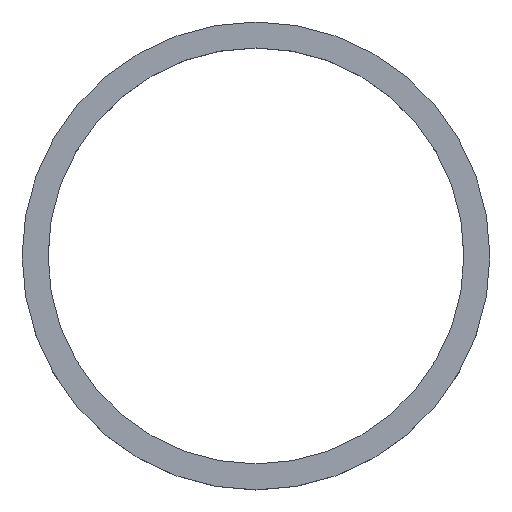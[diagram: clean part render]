
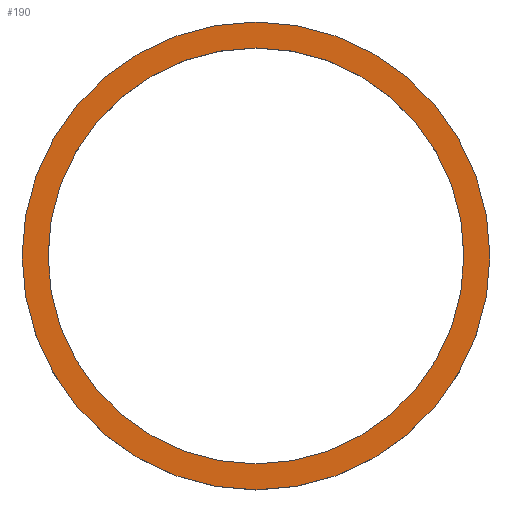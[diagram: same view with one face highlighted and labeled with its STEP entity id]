
A CAD part, top view. The second image highlights one B-rep face of the part: STEP entity #190.
In plain terms, the highlighted planar face has unit normal (0, 0, 1).
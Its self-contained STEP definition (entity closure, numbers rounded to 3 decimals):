
#24 = VERTEX_POINT('',#25);
#25 = CARTESIAN_POINT('',(180.,0.,50.));
#32 = CYLINDRICAL_SURFACE('',#33,180.);
#33 = AXIS2_PLACEMENT_3D('',#34,#35,#36);
#34 = CARTESIAN_POINT('',(0.,0.,0.));
#35 = DIRECTION('',(-0.,-0.,-1.));
#36 = DIRECTION('',(1.,0.,0.));
#51 = EDGE_CURVE('',#24,#24,#52,.T.);
#52 = SURFACE_CURVE('',#53,(#58,#65),.PCURVE_S1.);
#53 = CIRCLE('',#54,180.);
#54 = AXIS2_PLACEMENT_3D('',#55,#56,#57);
#55 = CARTESIAN_POINT('',(0.,0.,50.));
#56 = DIRECTION('',(0.,0.,1.));
#57 = DIRECTION('',(1.,0.,0.));
#58 = PCURVE('',#32,#59);
#59 = DEFINITIONAL_REPRESENTATION('',(#60),#64);
#60 = LINE('',#61,#62);
#61 = CARTESIAN_POINT('',(-0.,-50.));
#62 = VECTOR('',#63,1.);
#63 = DIRECTION('',(-1.,0.));
#64 = ( GEOMETRIC_REPRESENTATION_CONTEXT(2) 
PARAMETRIC_REPRESENTATION_CONTEXT() REPRESENTATION_CONTEXT('2D SPACE',''
  ) );
#65 = PCURVE('',#66,#71);
#66 = PLANE('',#67);
#67 = AXIS2_PLACEMENT_3D('',#68,#69,#70);
#68 = CARTESIAN_POINT('',(0.,0.,50.));
#69 = DIRECTION('',(0.,0.,1.));
#70 = DIRECTION('',(1.,0.,-0.));
#71 = DEFINITIONAL_REPRESENTATION('',(#72),#76);
#72 = CIRCLE('',#73,180.);
#73 = AXIS2_PLACEMENT_2D('',#74,#75);
#74 = CARTESIAN_POINT('',(0.,0.));
#75 = DIRECTION('',(1.,0.));
#76 = ( GEOMETRIC_REPRESENTATION_CONTEXT(2) 
PARAMETRIC_REPRESENTATION_CONTEXT() REPRESENTATION_CONTEXT('2D SPACE',''
  ) );
#112 = VERTEX_POINT('',#113);
#113 = CARTESIAN_POINT('',(160.,0.,50.));
#120 = CYLINDRICAL_SURFACE('',#121,160.);
#121 = AXIS2_PLACEMENT_3D('',#122,#123,#124);
#122 = CARTESIAN_POINT('',(0.,0.,0.));
#123 = DIRECTION('',(-0.,-0.,-1.));
#124 = DIRECTION('',(1.,0.,0.));
#139 = EDGE_CURVE('',#112,#112,#140,.T.);
#140 = SURFACE_CURVE('',#141,(#146,#153),.PCURVE_S1.);
#141 = CIRCLE('',#142,160.);
#142 = AXIS2_PLACEMENT_3D('',#143,#144,#145);
#143 = CARTESIAN_POINT('',(0.,0.,50.));
#144 = DIRECTION('',(0.,0.,1.));
#145 = DIRECTION('',(1.,0.,0.));
#146 = PCURVE('',#120,#147);
#147 = DEFINITIONAL_REPRESENTATION('',(#148),#152);
#148 = LINE('',#149,#150);
#149 = CARTESIAN_POINT('',(-0.,-50.));
#150 = VECTOR('',#151,1.);
#151 = DIRECTION('',(-1.,0.));
#152 = ( GEOMETRIC_REPRESENTATION_CONTEXT(2) 
PARAMETRIC_REPRESENTATION_CONTEXT() REPRESENTATION_CONTEXT('2D SPACE',''
  ) );
#153 = PCURVE('',#66,#154);
#154 = DEFINITIONAL_REPRESENTATION('',(#155),#159);
#155 = CIRCLE('',#156,160.);
#156 = AXIS2_PLACEMENT_2D('',#157,#158);
#157 = CARTESIAN_POINT('',(0.,0.));
#158 = DIRECTION('',(1.,0.));
#159 = ( GEOMETRIC_REPRESENTATION_CONTEXT(2) 
PARAMETRIC_REPRESENTATION_CONTEXT() REPRESENTATION_CONTEXT('2D SPACE',''
  ) );
#190 = ADVANCED_FACE('',(#191,#194),#66,.T.);
#191 = FACE_BOUND('',#192,.T.);
#192 = EDGE_LOOP('',(#193));
#193 = ORIENTED_EDGE('',*,*,#51,.T.);
#194 = FACE_BOUND('',#195,.T.);
#195 = EDGE_LOOP('',(#196));
#196 = ORIENTED_EDGE('',*,*,#139,.F.);
